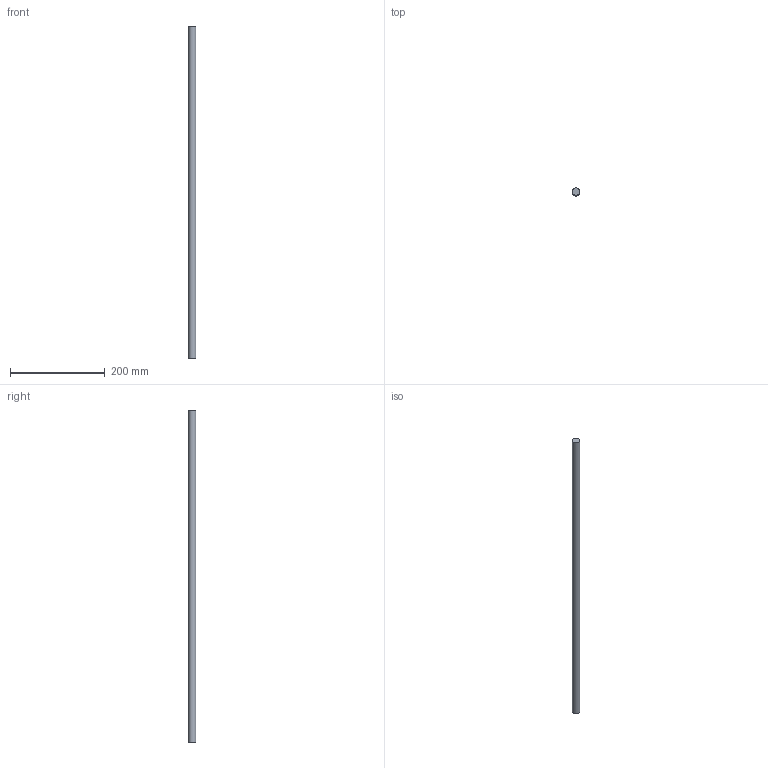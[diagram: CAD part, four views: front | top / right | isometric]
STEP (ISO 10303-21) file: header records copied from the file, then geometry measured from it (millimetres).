
FILE_DESCRIPTION(/* description */ (''),/* implementation_level */ '2;1');
FILE_NAME(/* name */ 'C:\Users\David\Desktop\stepFiles\Profilfuehrung\WF16x700.stp',/* time_stamp */ '2018-06-24T15:46:55+02:00',/* author */ ('David'),/* organization */ (''),/* preprocessor_version */ 'ST-DEVELOPER v17',/* originating_system */ 'Autodesk Inventor 2019',/* authorisation */ '');
FILE_SCHEMA (('AUTOMOTIVE_DESIGN { 1 0 10303 214 3 1 1 }'));
Length unit declared in the file: millimetre
Products named in the file (1): Wellenfuehrung
Bounding box: 16 x 16 x 700 mm (x, y, z)
Volume: 140743.4 mm3; surface area: 35588 mm2
Topology: 1 solids, 1 shells, 3 faces, 3 edges, 2 vertices
Faces by surface type: plane 2, cylinder 1
Full cylindrical faces by diameter (mm): 16 x1
Entity records: 98 total; most frequent: DIRECTION 13, CARTESIAN_POINT 9, ORIENTED_EDGE 6, AXIS2_PLACEMENT_3D 6, FACE_OUTER_BOUND 3, EDGE_LOOP 3, EDGE_CURVE 3, ADVANCED_FACE 3
